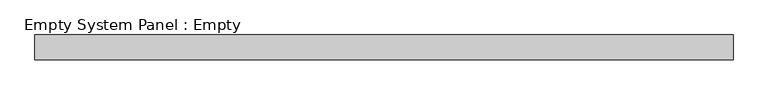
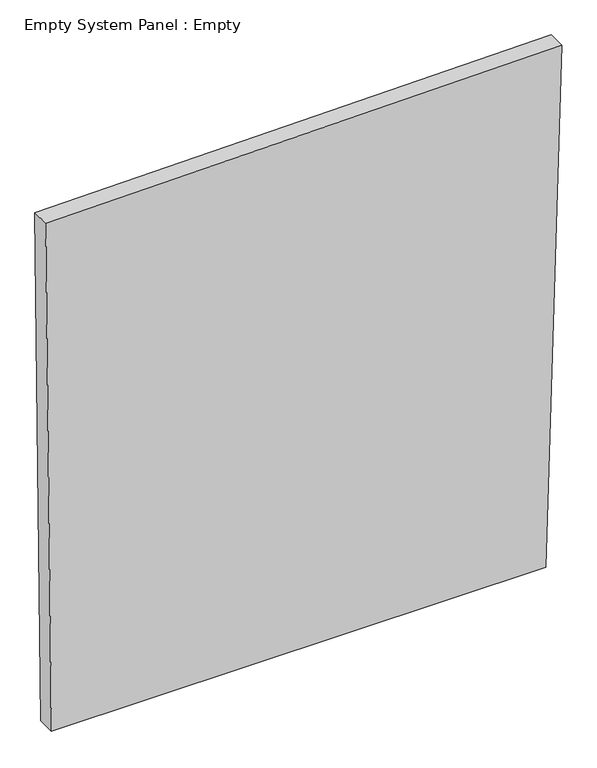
"""IFC4 building model written with IfcOpenShell, lengths in millimetres: plate geometry, Empty System Panel : Empty."""

from ifc_helpers import new_model, si_unit, frame, origin, place, context, project, spatial, polyline, outline, extrude, source, transform, mapped, element, save


def empty_system_panel_empty_bac36427(model_context):
    return source(origin(), model_context, "Body", "SweptSolid", [
        extrude(outline(polyline([(0.0, -1393.5894916), (0.0, 1338.9472504), (3018.490453, 1426.4698741), (2979.7706661, -1426.4698741), (0.0, -1393.5894916)])), frame((0.0, -50.8, 0.0), z_axis=(0.0, 1.0, 0.0), x_axis=(0.0, 0.0, 1.0)), (0.0, 0.0, 1.0), 101.6),
    ])


if __name__ == "__main__":
    model = new_model("IFC4")
    model_context = context("Model", 3, world=origin())
    ifc_project = project(units=[si_unit("LENGTHUNIT", "METRE", prefix="MILLI")], contexts=[model_context])
    site = spatial("IfcSite", under=ifc_project)
    building = spatial("IfcBuilding", under=site)
    placement = place(None, origin())
    empty_system_panel_empty_shape = empty_system_panel_empty_bac36427(model_context)
    element("IfcPlate", 1, ObjectType="Empty System Panel : Empty", at=placement, inside=building, context=model_context, shape_type="MappedRepresentation", body=[
        mapped(empty_system_panel_empty_shape, transform((0.0, 0.0, 0.0), x_axis=(1.0, 0.0, 0.0), y_axis=(0.0, 1.0, 0.0), z_axis=(0.0, 0.0, 1.0))),
    ])
    save(model, "model.ifc")
